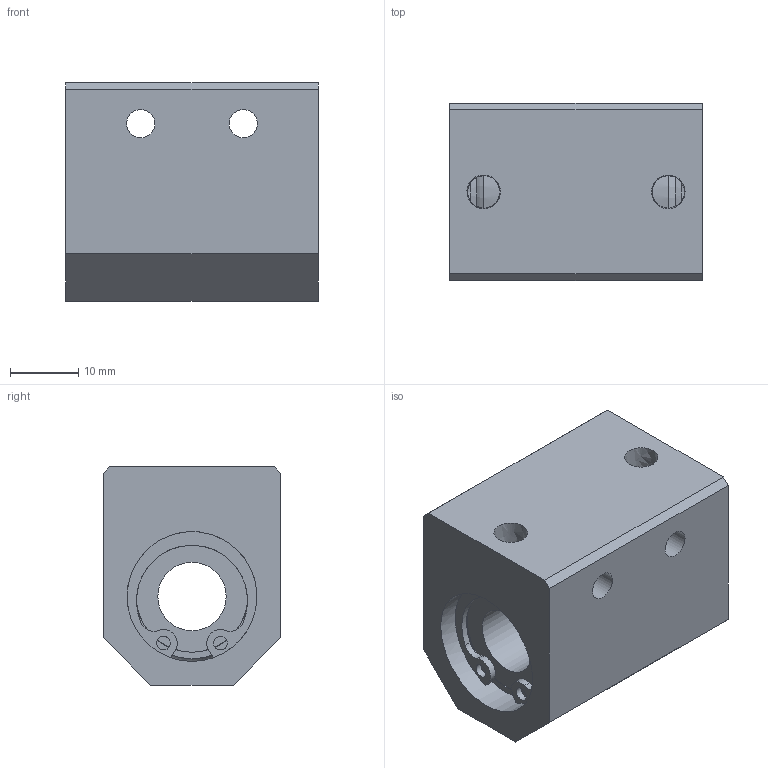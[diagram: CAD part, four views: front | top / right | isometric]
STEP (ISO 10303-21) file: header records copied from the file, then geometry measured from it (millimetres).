
FILE_DESCRIPTION((''),'2;1');
FILE_NAME('D:\製品 (図面)\カタログ用3D\リニアベアリング関連(改)\STEP形式\CH\CH10.stp','2010-01-25T09:33:06',('Tsuchiya'),(''),'Autodesk Inventor 10','Autodesk Inventor 10','');
FILE_SCHEMA(('AUTOMOTIVE_DESIGN { 1 0 10303 214 1 1 1 1 }'));
Length unit declared in the file: millimetre
Products named in the file (1): CH10
Bounding box: 37 x 26 x 32 mm (x, y, z)
Volume: 22901.9 mm3; surface area: 8584.9 mm2
Topology: 1 solids, 3 shells, 79 faces, 219 edges, 136 vertices
Faces by surface type: plane 33, bspline 23, cylinder 21, torus 2
Full cylindrical faces by diameter (mm): 2 x2, 10 x1, 16.3 x2, 18 x2, 19 x4
Entity records: 2651 total; most frequent: CARTESIAN_POINT 785, DIRECTION 386, ORIENTED_EDGE 364, EDGE_CURVE 182, AXIS2_PLACEMENT_3D 163, VERTEX_POINT 122, EDGE_LOOP 118, CIRCLE 108
